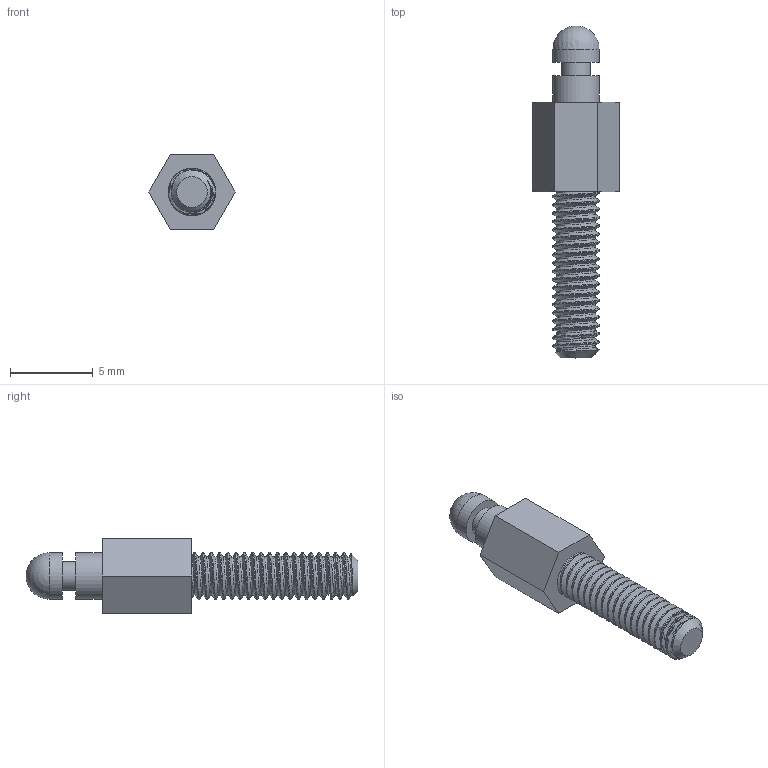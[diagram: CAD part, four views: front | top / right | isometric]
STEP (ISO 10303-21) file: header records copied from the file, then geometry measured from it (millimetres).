
FILE_DESCRIPTION (( 'STEP AP203' ), '1' );
FILE_NAME ('QLOCKPOST-1.STEP', '2026-06-16T12:30:04', ( '' ), ( '' ), 'SwSTEP 2.0', 'SolidWorks 2020', '' );
FILE_SCHEMA (( 'CONFIG_CONTROL_DESIGN' ));
Length unit declared in the file: millimetre
Products named in the file (1): QLOCKPOST-1
Bounding box: 5.2 x 20.01 x 4.5 mm (x, y, z)
Volume: 165.5 mm3; surface area: 284.5 mm2
Topology: 1 solids, 1 shells, 22 faces, 50 edges, 32 vertices
Faces by surface type: plane 12, bspline 4, cylinder 4, sphere 1, cone 1
Full cylindrical faces by diameter (mm): 1.75 x1, 2.8 x2
Entity records: 3737 total; most frequent: CARTESIAN_POINT 3248, ORIENTED_EDGE 80, DIRECTION 76, EDGE_CURVE 40, EDGE_LOOP 30, VERTEX_POINT 28, AXIS2_PLACEMENT_3D 27, FACE_OUTER_BOUND 25
